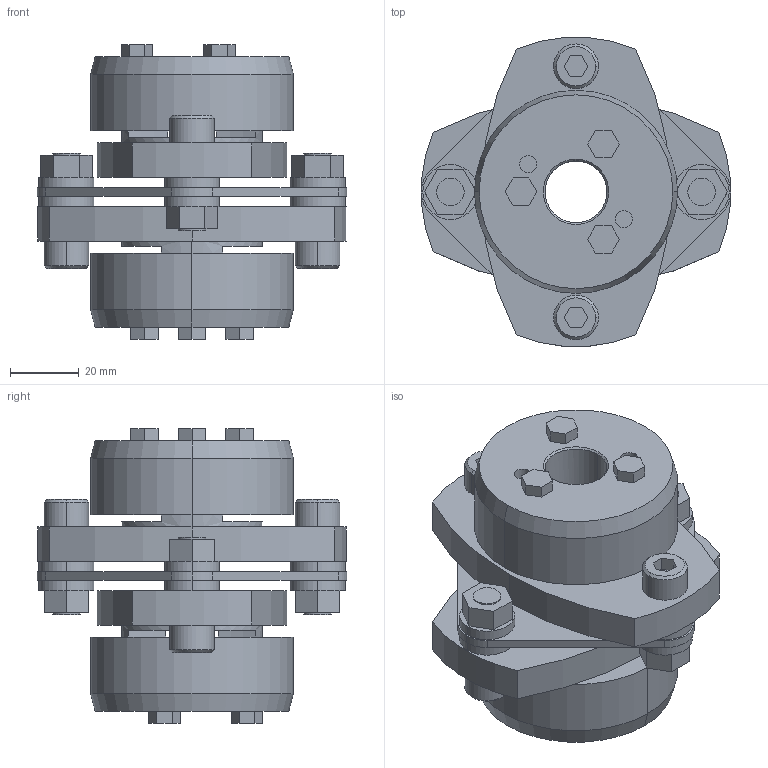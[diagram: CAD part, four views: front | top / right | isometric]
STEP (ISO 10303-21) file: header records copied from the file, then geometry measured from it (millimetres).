
FILE_DESCRIPTION((''),'2;1');
FILE_NAME('LCS-90T7-18×19.stp','2015-11-01T20:07:29',(''),(''),'AutoCAD STEP 2000i','AutoCAD 2000i',', , ');
FILE_SCHEMA(('CONFIG_CONTROL_DESIGN'));
Length unit declared in the file: millimetre
Products named in the file (7): LCS-90T7-19×19; 忣兜1; LC90T7-T019-1; LC90T7-T019; LC90-B019-1; LC90-B019; LCS90-ITA
Assembly tree (6 placements, depth 2):
  LCS-90T7-19×19
    忣兜1
    LC90T7-T019-1
    LC90T7-T019
    LC90-B019-1
    LC90-B019
    LCS90-ITA
Bounding box: 90 x 89.94 x 85.5 mm (x, y, z)
Volume: 209582.8 mm3; surface area: 52514.5 mm2
Topology: 1 solids, 1 shells, 232 faces, 568 edges, 372 vertices
Faces by surface type: plane 132, cylinder 80, cone 20
Entity records: 7063 total; most frequent: DIRECTION 1242, CARTESIAN_POINT 1179, ORIENTED_EDGE 1136, EDGE_CURVE 568, AXIS2_PLACEMENT_3D 435, VERTEX_POINT 372, VECTOR 372, LINE 372
